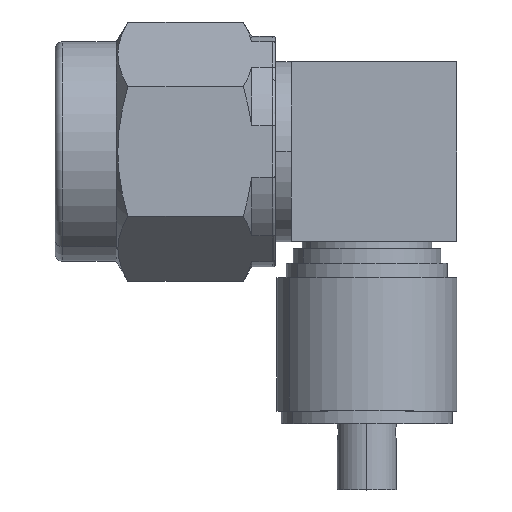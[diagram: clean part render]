
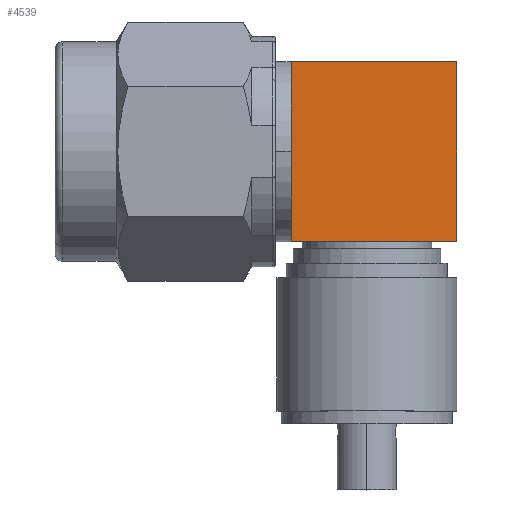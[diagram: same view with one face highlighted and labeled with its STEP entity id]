
A CAD part, top view. The second image highlights one B-rep face of the part: STEP entity #4539.
In plain terms, the highlighted planar face has unit normal (0, 0, 1).
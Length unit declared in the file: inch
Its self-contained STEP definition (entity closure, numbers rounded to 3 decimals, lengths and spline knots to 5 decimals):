
#17 = VECTOR ( 'NONE', #1353, 39.37008 ) ;
#36 = CARTESIAN_POINT ( 'NONE',  ( -0.105, 0.125, 0.125 ) ) ;
#279 = VECTOR ( 'NONE', #436, 39.37008 ) ;
#291 = VERTEX_POINT ( 'NONE', #4128 ) ;
#320 = CARTESIAN_POINT ( 'NONE',  ( 0.125, 0.125, 0.125 ) ) ;
#436 = DIRECTION ( 'NONE',  ( 0., -1., 0. ) ) ;
#868 = LINE ( 'NONE', #3602, #1920 ) ;
#950 = DIRECTION ( 'NONE',  ( 0., 0., -1. ) ) ;
#970 = VERTEX_POINT ( 'NONE', #4467 ) ;
#1002 = VERTEX_POINT ( 'NONE', #2367 ) ;
#1033 = LINE ( 'NONE', #3307, #3004 ) ;
#1172 = EDGE_LOOP ( 'NONE', ( #1558, #3049, #4875, #2286, #2821 ) ) ;
#1353 = DIRECTION ( 'NONE',  ( 0., -1., 0. ) ) ;
#1414 = LINE ( 'NONE', #36, #279 ) ;
#1472 = EDGE_CURVE ( 'NONE', #970, #291, #2958, .T. ) ;
#1558 = ORIENTED_EDGE ( 'NONE', *, *, #3725, .T. ) ;
#1634 = DIRECTION ( 'NONE',  ( -1., 0., 0. ) ) ;
#1920 = VECTOR ( 'NONE', #4409, 39.37008 ) ;
#2286 = ORIENTED_EDGE ( 'NONE', *, *, #1472, .F. ) ;
#2367 = CARTESIAN_POINT ( 'NONE',  ( -0.105, 0.125, 0.125 ) ) ;
#2582 = EDGE_CURVE ( 'NONE', #4120, #970, #868, .T. ) ;
#2821 = ORIENTED_EDGE ( 'NONE', *, *, #2582, .F. ) ;
#2958 = LINE ( 'NONE', #4405, #5065 ) ;
#3004 = VECTOR ( 'NONE', #3714, 39.37008 ) ;
#3049 = ORIENTED_EDGE ( 'NONE', *, *, #3717, .T. ) ;
#3121 = LINE ( 'NONE', #4108, #17 ) ;
#3301 = CARTESIAN_POINT ( 'NONE',  ( 0.125, 0.125, 0.125 ) ) ;
#3307 = CARTESIAN_POINT ( 'NONE',  ( 0.125, 0.125, 0.125 ) ) ;
#3602 = CARTESIAN_POINT ( 'NONE',  ( 0.125, 0.125, 0.125 ) ) ;
#3707 = DIRECTION ( 'NONE',  ( 0., 1., 0. ) ) ;
#3714 = DIRECTION ( 'NONE',  ( -1., 0., 0. ) ) ;
#3717 = EDGE_CURVE ( 'NONE', #1002, #3770, #3121, .T. ) ;
#3725 = EDGE_CURVE ( 'NONE', #4120, #1002, #1033, .T. ) ;
#3754 = AXIS2_PLACEMENT_3D ( 'NONE', #3301, #950, #3707 ) ;
#3769 = CARTESIAN_POINT ( 'NONE',  ( -0.105, 0., 0.125 ) ) ;
#3770 = VERTEX_POINT ( 'NONE', #3769 ) ;
#4092 = PLANE ( 'NONE',  #3754 ) ;
#4108 = CARTESIAN_POINT ( 'NONE',  ( -0.105, 0.125, 0.125 ) ) ;
#4120 = VERTEX_POINT ( 'NONE', #320 ) ;
#4128 = CARTESIAN_POINT ( 'NONE',  ( -0.105, -0.125, 0.125 ) ) ;
#4345 = FACE_OUTER_BOUND ( 'NONE', #1172, .T. ) ;
#4405 = CARTESIAN_POINT ( 'NONE',  ( 0.125, -0.125, 0.125 ) ) ;
#4409 = DIRECTION ( 'NONE',  ( 0., -1., 0. ) ) ;
#4467 = CARTESIAN_POINT ( 'NONE',  ( 0.125, -0.125, 0.125 ) ) ;
#4539 = ADVANCED_FACE ( 'NONE', ( #4345 ), #4092, .F. ) ;
#4802 = EDGE_CURVE ( 'NONE', #3770, #291, #1414, .T. ) ;
#4875 = ORIENTED_EDGE ( 'NONE', *, *, #4802, .T. ) ;
#5065 = VECTOR ( 'NONE', #1634, 39.37008 ) ;
